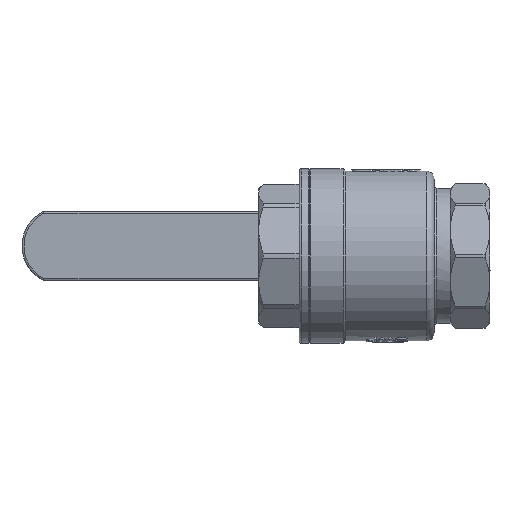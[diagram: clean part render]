
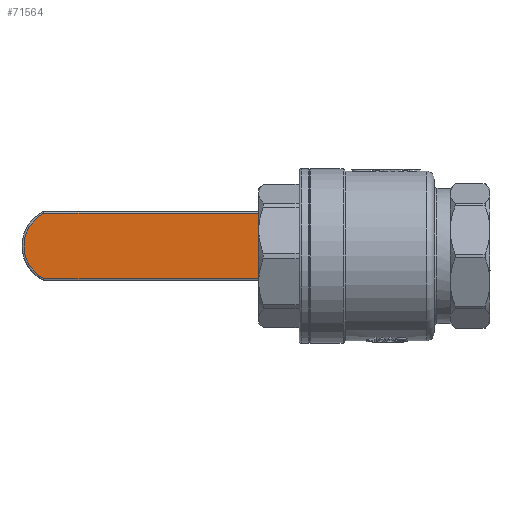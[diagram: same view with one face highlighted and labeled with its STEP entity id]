
A CAD part, front view. The second image highlights one B-rep face of the part: STEP entity #71564.
In plain terms, the highlighted planar face has unit normal (0, -1, 0).
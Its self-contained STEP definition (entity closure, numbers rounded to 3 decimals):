
#863 = CARTESIAN_POINT ( 'NONE',  ( -124., -5., -16.45 ) ) ;
#1530 = CARTESIAN_POINT ( 'NONE',  ( -18.5, -5., 0. ) ) ;
#1977 = VERTEX_POINT ( 'NONE', #54217 ) ;
#6522 = LINE ( 'NONE', #29163, #60628 ) ;
#8642 = PLANE ( 'NONE',  #94874 ) ;
#11632 = LINE ( 'NONE', #863, #71582 ) ;
#19493 = CARTESIAN_POINT ( 'NONE',  ( -123.567, -5., 16.45 ) ) ;
#23771 = VERTEX_POINT ( 'NONE', #32068 ) ;
#25276 = ORIENTED_EDGE ( 'NONE', *, *, #92468, .T. ) ;
#27982 = EDGE_CURVE ( 'NONE', #23771, #43666, #29395, .T. ) ;
#28417 = VECTOR ( 'NONE', #49484, 1000. ) ;
#29163 = CARTESIAN_POINT ( 'NONE',  ( -123.134, -5., -17.45 ) ) ;
#29395 = CIRCLE ( 'NONE', #52654, 18.5 ) ;
#30530 = DIRECTION ( 'NONE',  ( 0., 0., 1. ) ) ;
#32068 = CARTESIAN_POINT ( 'NONE',  ( -10.036, -5., -16.45 ) ) ;
#33123 = ORIENTED_EDGE ( 'NONE', *, *, #27982, .T. ) ;
#36807 = CARTESIAN_POINT ( 'NONE',  ( -123.134, -5., -16.45 ) ) ;
#37908 = DIRECTION ( 'NONE',  ( 0., 1., 0. ) ) ;
#43222 = EDGE_CURVE ( 'NONE', #81928, #23771, #11632, .T. ) ;
#43656 = DIRECTION ( 'NONE',  ( 0., 0., -1. ) ) ;
#43666 = VERTEX_POINT ( 'NONE', #78597 ) ;
#46891 = LINE ( 'NONE', #19493, #28417 ) ;
#49484 = DIRECTION ( 'NONE',  ( -1., 0., 0. ) ) ;
#51607 = EDGE_CURVE ( 'NONE', #43666, #1977, #46891, .T. ) ;
#52654 = AXIS2_PLACEMENT_3D ( 'NONE', #1530, #61330, #89598 ) ;
#53542 = EDGE_LOOP ( 'NONE', ( #25276, #74929, #33123, #85055 ) ) ;
#54217 = CARTESIAN_POINT ( 'NONE',  ( -123.134, -5., 16.45 ) ) ;
#58746 = FACE_OUTER_BOUND ( 'NONE', #53542, .T. ) ;
#60628 = VECTOR ( 'NONE', #43656, 1000. ) ;
#61330 = DIRECTION ( 'NONE',  ( 0., -1., 0. ) ) ;
#71564 = ADVANCED_FACE ( 'NONE', ( #58746 ), #8642, .F. ) ;
#71582 = VECTOR ( 'NONE', #81859, 1000. ) ;
#74929 = ORIENTED_EDGE ( 'NONE', *, *, #43222, .T. ) ;
#78597 = CARTESIAN_POINT ( 'NONE',  ( -10.036, -5., 16.45 ) ) ;
#81859 = DIRECTION ( 'NONE',  ( 1., 0., 0. ) ) ;
#81928 = VERTEX_POINT ( 'NONE', #36807 ) ;
#82287 = CARTESIAN_POINT ( 'NONE',  ( -124., -5., 16.45 ) ) ;
#85055 = ORIENTED_EDGE ( 'NONE', *, *, #51607, .T. ) ;
#89598 = DIRECTION ( 'NONE',  ( 0., 0., 1. ) ) ;
#92468 = EDGE_CURVE ( 'NONE', #1977, #81928, #6522, .T. ) ;
#94874 = AXIS2_PLACEMENT_3D ( 'NONE', #82287, #37908, #30530 ) ;
